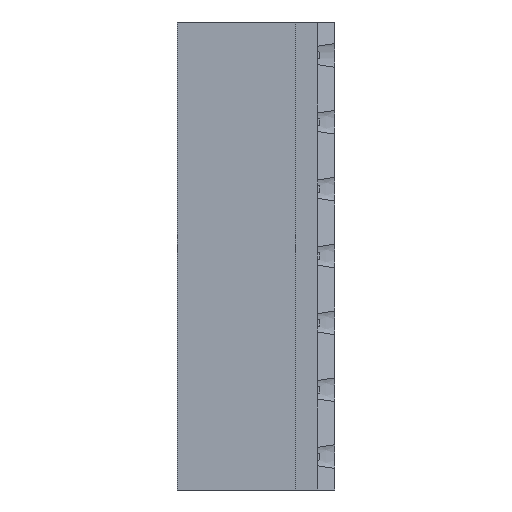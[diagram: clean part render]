
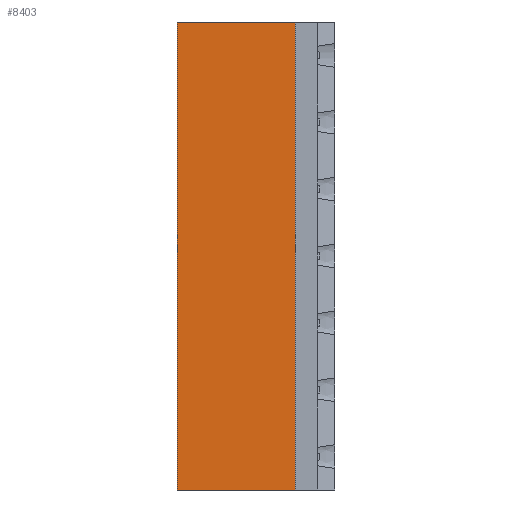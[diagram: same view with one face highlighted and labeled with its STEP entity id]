
A CAD part, left-side view. The second image highlights one B-rep face of the part: STEP entity #8403.
In plain terms, the highlighted planar face has unit normal (-1, 0, 0).
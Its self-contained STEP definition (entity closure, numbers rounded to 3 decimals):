
#1736 = LINE ( 'NONE', #8252, #1948 ) ;
#1948 = VECTOR ( 'NONE', #2823, 1000. ) ;
#2562 = EDGE_CURVE ( 'NONE', #11712, #15507, #2596, .T. ) ;
#2596 = LINE ( 'NONE', #8116, #6181 ) ;
#2823 = DIRECTION ( 'NONE',  ( 0., -1., 0. ) ) ;
#3120 = CARTESIAN_POINT ( 'NONE',  ( -3.9, 12., 35.56 ) ) ;
#3483 = VERTEX_POINT ( 'NONE', #11300 ) ;
#4017 = ORIENTED_EDGE ( 'NONE', *, *, #7880, .T. ) ;
#5585 = LINE ( 'NONE', #7306, #17212 ) ;
#5997 = AXIS2_PLACEMENT_3D ( 'NONE', #11603, #7533, #14915 ) ;
#6084 = PLANE ( 'NONE',  #5997 ) ;
#6181 = VECTOR ( 'NONE', #17869, 1000. ) ;
#7071 = CARTESIAN_POINT ( 'NONE',  ( -3.9, 3., 35.56 ) ) ;
#7306 = CARTESIAN_POINT ( 'NONE',  ( -3.9, 3., 35.56 ) ) ;
#7413 = CARTESIAN_POINT ( 'NONE',  ( -3.9, 12., 0. ) ) ;
#7433 = VECTOR ( 'NONE', #16782, 1000. ) ;
#7533 = DIRECTION ( 'NONE',  ( -1., 0., 0. ) ) ;
#7880 = EDGE_CURVE ( 'NONE', #11712, #3483, #11355, .T. ) ;
#7953 = FACE_OUTER_BOUND ( 'NONE', #11024, .T. ) ;
#8116 = CARTESIAN_POINT ( 'NONE',  ( -3.9, 12., 0. ) ) ;
#8252 = CARTESIAN_POINT ( 'NONE',  ( -3.9, 12., 35.56 ) ) ;
#8403 = ADVANCED_FACE ( 'NONE', ( #7953 ), #6084, .T. ) ;
#9440 = ORIENTED_EDGE ( 'NONE', *, *, #12414, .F. ) ;
#9740 = ORIENTED_EDGE ( 'NONE', *, *, #15940, .F. ) ;
#9975 = ORIENTED_EDGE ( 'NONE', *, *, #2562, .F. ) ;
#10106 = VERTEX_POINT ( 'NONE', #7071 ) ;
#11024 = EDGE_LOOP ( 'NONE', ( #4017, #9440, #9740, #9975 ) ) ;
#11300 = CARTESIAN_POINT ( 'NONE',  ( -3.9, 3., 0. ) ) ;
#11355 = LINE ( 'NONE', #12800, #7433 ) ;
#11603 = CARTESIAN_POINT ( 'NONE',  ( -3.9, 12., 0. ) ) ;
#11712 = VERTEX_POINT ( 'NONE', #7413 ) ;
#12414 = EDGE_CURVE ( 'NONE', #10106, #3483, #5585, .T. ) ;
#12800 = CARTESIAN_POINT ( 'NONE',  ( -3.9, 12., 0. ) ) ;
#14915 = DIRECTION ( 'NONE',  ( 0., 0., 1. ) ) ;
#15351 = DIRECTION ( 'NONE',  ( 0., 0., -1. ) ) ;
#15507 = VERTEX_POINT ( 'NONE', #3120 ) ;
#15940 = EDGE_CURVE ( 'NONE', #15507, #10106, #1736, .T. ) ;
#16782 = DIRECTION ( 'NONE',  ( 0., -1., 0. ) ) ;
#17212 = VECTOR ( 'NONE', #15351, 1000. ) ;
#17869 = DIRECTION ( 'NONE',  ( 0., 0., 1. ) ) ;
